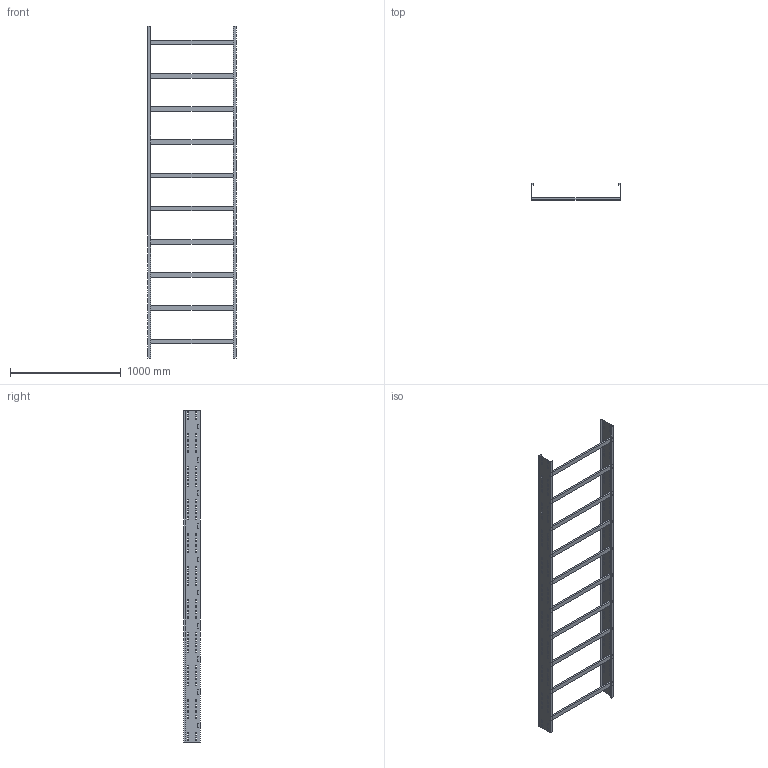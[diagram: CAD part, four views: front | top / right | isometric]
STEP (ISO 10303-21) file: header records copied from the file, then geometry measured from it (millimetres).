
FILE_DESCRIPTION (( 'STEP AP214' ), '1' );
FILE_NAME ('01J3F800.step', '2025-02-21T16:29:32', ( '' ), ( '' ), 'SwSTEP 2.0', 'SolidWorks 2023', '' );
FILE_SCHEMA (( 'AUTOMOTIVE_DESIGN' ));
Length unit declared in the file: millimetre
Products named in the file (3): TRAVERSINO_800; LONGH.H150; 01J3F800
Assembly tree (12 placements, depth 2):
  01J3F800
    LONGH.H150  x2
    TRAVERSINO_800  x10
Bounding box: 800 x 150 x 3000 mm (x, y, z)
Volume: 9627600 mm3; surface area: 3247288 mm2
Topology: 12 solids, 12 shells, 720 faces, 2088 edges, 1392 vertices
Faces by surface type: plane 720
Entity records: 11488 total; most frequent: CARTESIAN_POINT 2011, ORIENTED_EDGE 1992, DIRECTION 1698, LINE 996, EDGE_CURVE 996, VECTOR 996, VERTEX_POINT 664, EDGE_LOOP 496
